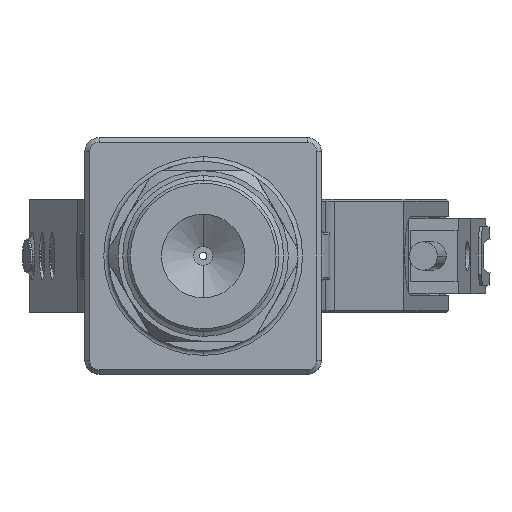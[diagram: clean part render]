
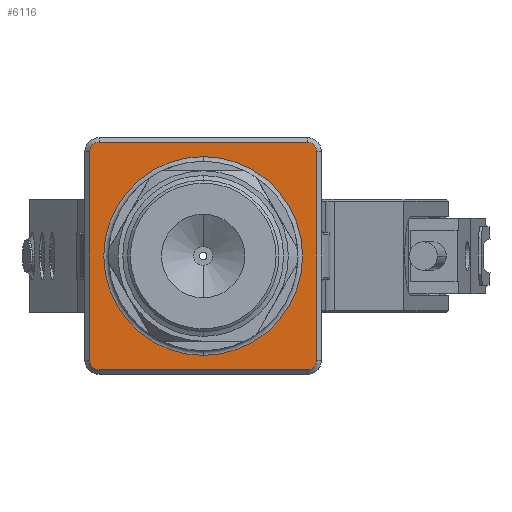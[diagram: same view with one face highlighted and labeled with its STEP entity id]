
A CAD part, front view. The second image highlights one B-rep face of the part: STEP entity #6116.
In plain terms, the highlighted planar face has unit normal (0, -1, 0).
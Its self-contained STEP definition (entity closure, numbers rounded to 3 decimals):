
#5421=PLANE('',#18642);
#5538=FACE_BOUND('',#7975,.T.);
#6116=ADVANCED_FACE('',(#7141,#5538),#5421,.F.);
#7141=FACE_OUTER_BOUND('',#7974,.T.);
#7974=EDGE_LOOP('',(#11694,#11695,#11696,#11697,#11698,#11699,#11700,#11701));
#7975=EDGE_LOOP('',(#11702,#11703));
#8726=CIRCLE('',#18592,10.5);
#8758=CIRCLE('',#18637,1.);
#8759=CIRCLE('',#18638,1.);
#8760=CIRCLE('',#18639,1.);
#8761=CIRCLE('',#18640,1.);
#8762=CIRCLE('',#18641,10.5);
#11694=ORIENTED_EDGE('',*,*,#15191,.T.);
#11695=ORIENTED_EDGE('',*,*,#15192,.T.);
#11696=ORIENTED_EDGE('',*,*,#15193,.T.);
#11697=ORIENTED_EDGE('',*,*,#15194,.T.);
#11698=ORIENTED_EDGE('',*,*,#15195,.T.);
#11699=ORIENTED_EDGE('',*,*,#15196,.T.);
#11700=ORIENTED_EDGE('',*,*,#15197,.T.);
#11701=ORIENTED_EDGE('',*,*,#15198,.T.);
#11702=ORIENTED_EDGE('',*,*,#15199,.T.);
#11703=ORIENTED_EDGE('',*,*,#15088,.T.);
#13468=VERTEX_POINT('',#27544);
#13469=VERTEX_POINT('',#27545);
#13559=VERTEX_POINT('',#27845);
#13560=VERTEX_POINT('',#27846);
#13561=VERTEX_POINT('',#27848);
#13562=VERTEX_POINT('',#27850);
#13563=VERTEX_POINT('',#27852);
#13564=VERTEX_POINT('',#27854);
#13565=VERTEX_POINT('',#27856);
#13566=VERTEX_POINT('',#27858);
#15088=EDGE_CURVE('',#13468,#13469,#8726,.T.);
#15191=EDGE_CURVE('',#13559,#13560,#8758,.T.);
#15192=EDGE_CURVE('',#13560,#13561,#16387,.T.);
#15193=EDGE_CURVE('',#13561,#13562,#8759,.T.);
#15194=EDGE_CURVE('',#13562,#13563,#16388,.T.);
#15195=EDGE_CURVE('',#13563,#13564,#8760,.T.);
#15196=EDGE_CURVE('',#13564,#13565,#16389,.T.);
#15197=EDGE_CURVE('',#13565,#13566,#8761,.T.);
#15198=EDGE_CURVE('',#13566,#13559,#16390,.T.);
#15199=EDGE_CURVE('',#13469,#13468,#8762,.T.);
#16387=LINE('',#27847,#17362);
#16388=LINE('',#27851,#17363);
#16389=LINE('',#27855,#17364);
#16390=LINE('',#27859,#17365);
#17362=VECTOR('',#22101,1.);
#17363=VECTOR('',#22104,1.);
#17364=VECTOR('',#22107,1.);
#17365=VECTOR('',#22110,1.);
#18592=AXIS2_PLACEMENT_3D('',#27543,#21950,#21951);
#18637=AXIS2_PLACEMENT_3D('',#27844,#22099,#22100);
#18638=AXIS2_PLACEMENT_3D('',#27849,#22102,#22103);
#18639=AXIS2_PLACEMENT_3D('',#27853,#22105,#22106);
#18640=AXIS2_PLACEMENT_3D('',#27857,#22108,#22109);
#18641=AXIS2_PLACEMENT_3D('',#27860,#22111,#22112);
#18642=AXIS2_PLACEMENT_3D('',#27861,#22113,#22114);
#21950=DIRECTION('',(0.,1.,0.));
#21951=DIRECTION('',(0.,0.,1.));
#22099=DIRECTION('',(0.,-1.,0.));
#22100=DIRECTION('',(0.,0.,1.));
#22101=DIRECTION('',(0.,0.,-1.));
#22102=DIRECTION('',(0.,-1.,0.));
#22103=DIRECTION('',(0.,0.,1.));
#22104=DIRECTION('',(1.,0.,0.));
#22105=DIRECTION('',(0.,-1.,0.));
#22106=DIRECTION('',(0.,0.,1.));
#22107=DIRECTION('',(0.,0.,1.));
#22108=DIRECTION('',(0.,-1.,0.));
#22109=DIRECTION('',(0.,0.,1.));
#22110=DIRECTION('',(-1.,0.,0.));
#22111=DIRECTION('',(0.,1.,0.));
#22112=DIRECTION('',(0.,0.,1.));
#22113=DIRECTION('',(0.,1.,0.));
#22114=DIRECTION('',(0.,0.,1.));
#27543=CARTESIAN_POINT('',(0.,45.,0.));
#27544=CARTESIAN_POINT('',(0.,45.,-10.5));
#27545=CARTESIAN_POINT('',(0.,45.,10.5));
#27844=CARTESIAN_POINT('',(-11.,45.,11.));
#27845=CARTESIAN_POINT('',(-11.,45.,12.));
#27846=CARTESIAN_POINT('',(-12.,45.,11.));
#27847=CARTESIAN_POINT('',(-12.,45.,-11.));
#27848=CARTESIAN_POINT('',(-12.,45.,-11.));
#27849=CARTESIAN_POINT('',(-11.,45.,-11.));
#27850=CARTESIAN_POINT('',(-11.,45.,-12.));
#27851=CARTESIAN_POINT('',(11.,45.,-12.));
#27852=CARTESIAN_POINT('',(11.,45.,-12.));
#27853=CARTESIAN_POINT('',(11.,45.,-11.));
#27854=CARTESIAN_POINT('',(12.,45.,-11.));
#27855=CARTESIAN_POINT('',(12.,45.,11.));
#27856=CARTESIAN_POINT('',(12.,45.,11.));
#27857=CARTESIAN_POINT('',(11.,45.,11.));
#27858=CARTESIAN_POINT('',(11.,45.,12.));
#27859=CARTESIAN_POINT('',(-11.,45.,12.));
#27860=CARTESIAN_POINT('',(0.,45.,0.));
#27861=CARTESIAN_POINT('',(0.,45.,0.));
